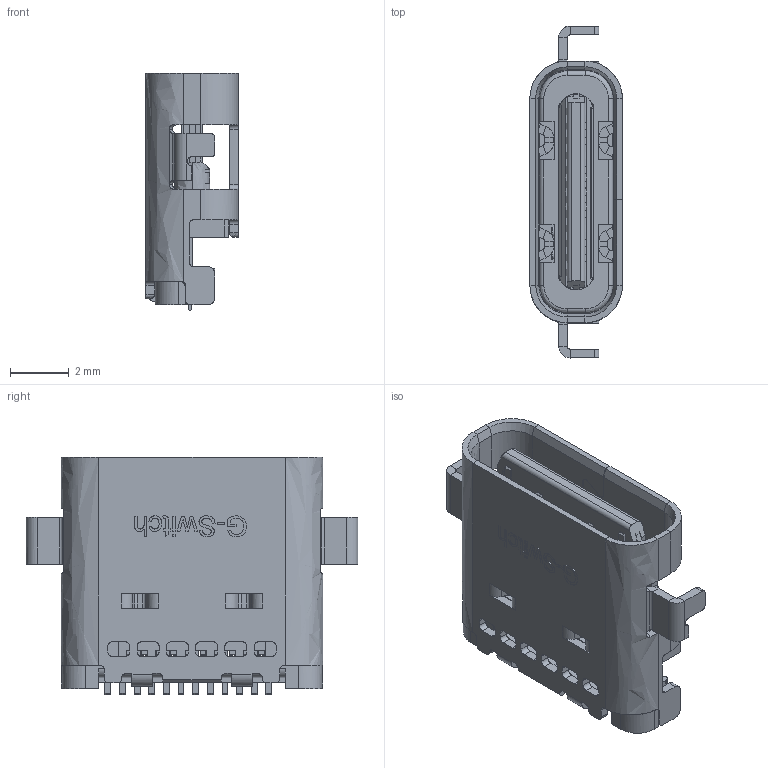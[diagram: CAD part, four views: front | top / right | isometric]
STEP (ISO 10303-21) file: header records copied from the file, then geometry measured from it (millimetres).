
FILE_DESCRIPTION (( 'STEP AP203' ), '1' );
FILE_NAME ('GT-USB-7007C.STEP', '2023-04-12T07:51:24', ( '' ), ( '' ), 'SwSTEP 2.0', 'SolidWorks 2023', '' );
FILE_SCHEMA (( 'CONFIG_CONTROL_DESIGN' ));
Products named in the file (1): GT-USB-7007C
Bounding box: 3.17 x 11.34 x 8.1 mm (x, y, z)
Surface area: 931.6 mm2 (no closed solid volume)
Topology: 0 solids, 1004 shells, 3920 faces, 15419 edges, 12116 vertices
Faces by surface type: bspline 3852, plane 68
Entity records: 155517 total; most frequent: CARTESIAN_POINT 75596, ORIENTED_EDGE 21845, EDGE_CURVE 15423, B_SPLINE_CURVE_WITH_KNOTS 13571, VERTEX_POINT 12132, EDGE_LOOP 4061, FACE_OUTER_BOUND 3920, ADVANCED_FACE 3918
